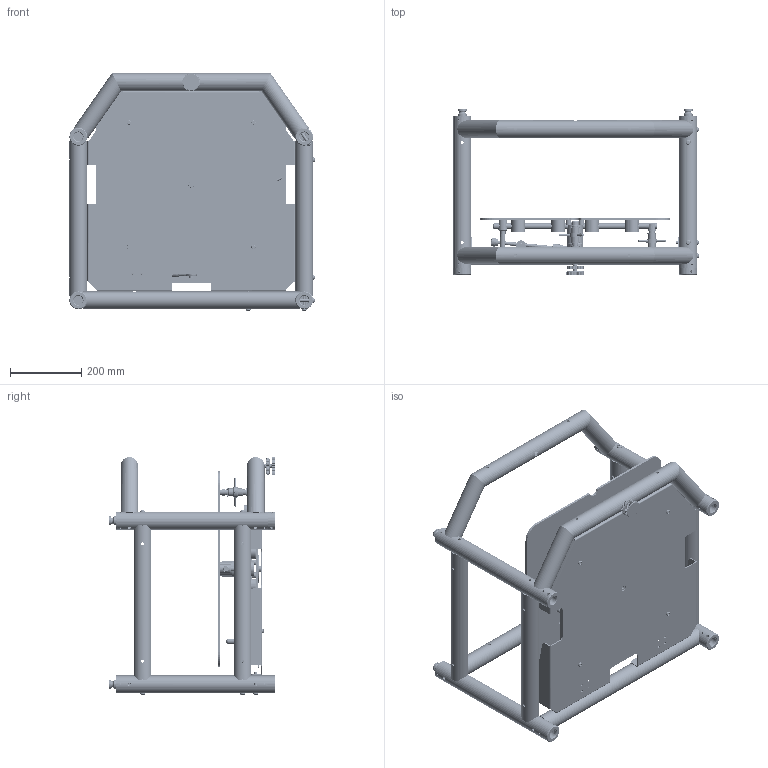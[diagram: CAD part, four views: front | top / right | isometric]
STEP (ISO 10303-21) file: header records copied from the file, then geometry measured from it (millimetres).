
FILE_DESCRIPTION (( 'STEP AP203' ), '1' );
FILE_NAME ('020-002149-01-Christie-DWG-Line-QwikRig-FRM V2.stp', '2025-11-21T06:18:42', ( '' ), ( '' ), 'SwSTEP 2.0', 'SolidWorks 2024', '' );
FILE_SCHEMA (( 'CONFIG_CONTROL_DESIGN' ));
Length unit declared in the file: millimetre
Products named in the file (3): M339562; 020-002149-01-Christie-DWG-Line-QwikRig-FRM V2; M339561
Assembly tree (2 placements, depth 2):
  020-002149-01-Christie-DWG-Line-QwikRig-FRM V2
    M339561
    M339562
Bounding box: 689.3 x 468 x 667.83 mm (x, y, z)
Volume: 7813615.3 mm3; surface area: 3894015.6 mm2
Topology: 91 solids, 91 shells, 5976 faces, 16886 edges, 10894 vertices
Faces by surface type: plane 3157, cylinder 2104, cone 447, torus 174, bspline 84, sphere 10
Entity records: 228524 total; most frequent: CARTESIAN_POINT 82090, ORIENTED_EDGE 33386, DIRECTION 26881, EDGE_CURVE 16693, VERTEX_POINT 10854, AXIS2_PLACEMENT_3D 10113, VECTOR 6655, LINE 6655
